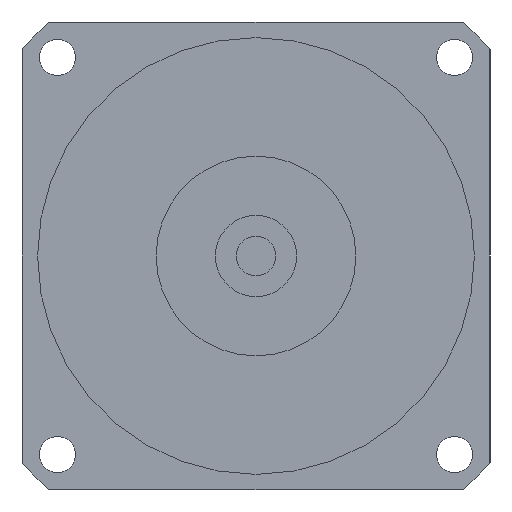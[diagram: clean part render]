
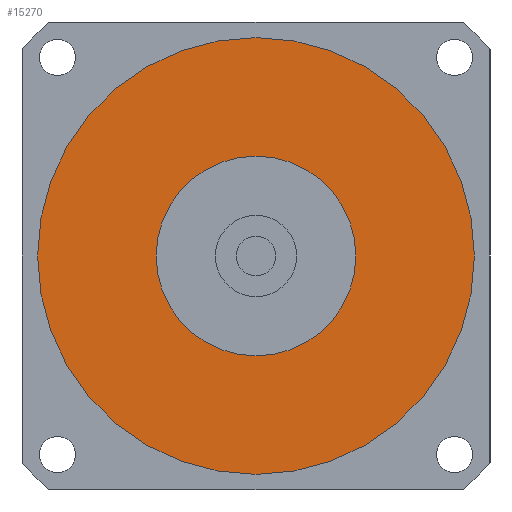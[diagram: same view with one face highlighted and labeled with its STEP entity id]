
A CAD part, left-side view. The second image highlights one B-rep face of the part: STEP entity #15270.
In plain terms, the highlighted planar face has unit normal (-1, 0, 0) as drawn and (0, 0, -1) by its records, which use the part's own axes.
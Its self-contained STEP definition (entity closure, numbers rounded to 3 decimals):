
#14690=CARTESIAN_POINT('',(35.,0.,-33.6));
#14700=VERTEX_POINT('',#14690);
#14790=CARTESIAN_POINT('',(-35.,0.,-33.6));
#14800=VERTEX_POINT('',#14790);
#14830=CARTESIAN_POINT('',(0.,0.,
-33.6));
#14840=DIRECTION('',(0.,0.,1.));
#14850=DIRECTION('',(0.,1.,0.));
#14860=AXIS2_PLACEMENT_3D('',#14830,#14840,#14850);
#14870=CIRCLE('',#14860,35.);
#14880=CARTESIAN_POINT('',(0.,35.,-33.6));
#14890=VERTEX_POINT('',#14880);
#14900=EDGE_CURVE('',#14890,#14800,#14870,.T.);
#14920=EDGE_CURVE('',#14700,#14890,#14870,.T.);
#14970=CARTESIAN_POINT('',(0.,0.,
-33.6));
#14980=DIRECTION('',(0.,0.,1.));
#14990=DIRECTION('',(-1.,0.,0.));
#15000=AXIS2_PLACEMENT_3D('',#14970,#14980,#14990);
#15010=PLANE('',#15000);
#15020=ORIENTED_EDGE('',*,*,#14900,.F.);
#15030=EDGE_CURVE('',#14800,#14700,#14870,.T.);
#15040=ORIENTED_EDGE('',*,*,#15030,.F.);
#15050=ORIENTED_EDGE('',*,*,#14920,.F.);
#15060=EDGE_LOOP('',(#15050,#15040,#15020));
#15070=FACE_OUTER_BOUND('',#15060,.T.);
#15080=CARTESIAN_POINT('',(0.,0.,
-33.6));
#15090=DIRECTION('',(0.,0.,1.));
#15100=DIRECTION('',(0.,1.,0.));
#15110=AXIS2_PLACEMENT_3D('',#15080,#15090,#15100);
#15120=CIRCLE('',#15110,16.);
#15130=CARTESIAN_POINT('',(-16.,0.,-33.6));
#15140=VERTEX_POINT('',#15130);
#15150=CARTESIAN_POINT('',(16.,0.,-33.6));
#15160=VERTEX_POINT('',#15150);
#15170=EDGE_CURVE('',#15140,#15160,#15120,.T.);
#15180=ORIENTED_EDGE('',*,*,#15170,.T.);
#15190=CARTESIAN_POINT('',(0.,16.,-33.6));
#15200=VERTEX_POINT('',#15190);
#15210=EDGE_CURVE('',#15200,#15140,#15120,.T.);
#15220=ORIENTED_EDGE('',*,*,#15210,.T.);
#15230=EDGE_CURVE('',#15160,#15200,#15120,.T.);
#15240=ORIENTED_EDGE('',*,*,#15230,.T.);
#15250=EDGE_LOOP('',(#15240,#15220,#15180));
#15260=FACE_BOUND('',#15250,.T.);
#15270=ADVANCED_FACE('',(#15070,#15260),#15010,.F.);
